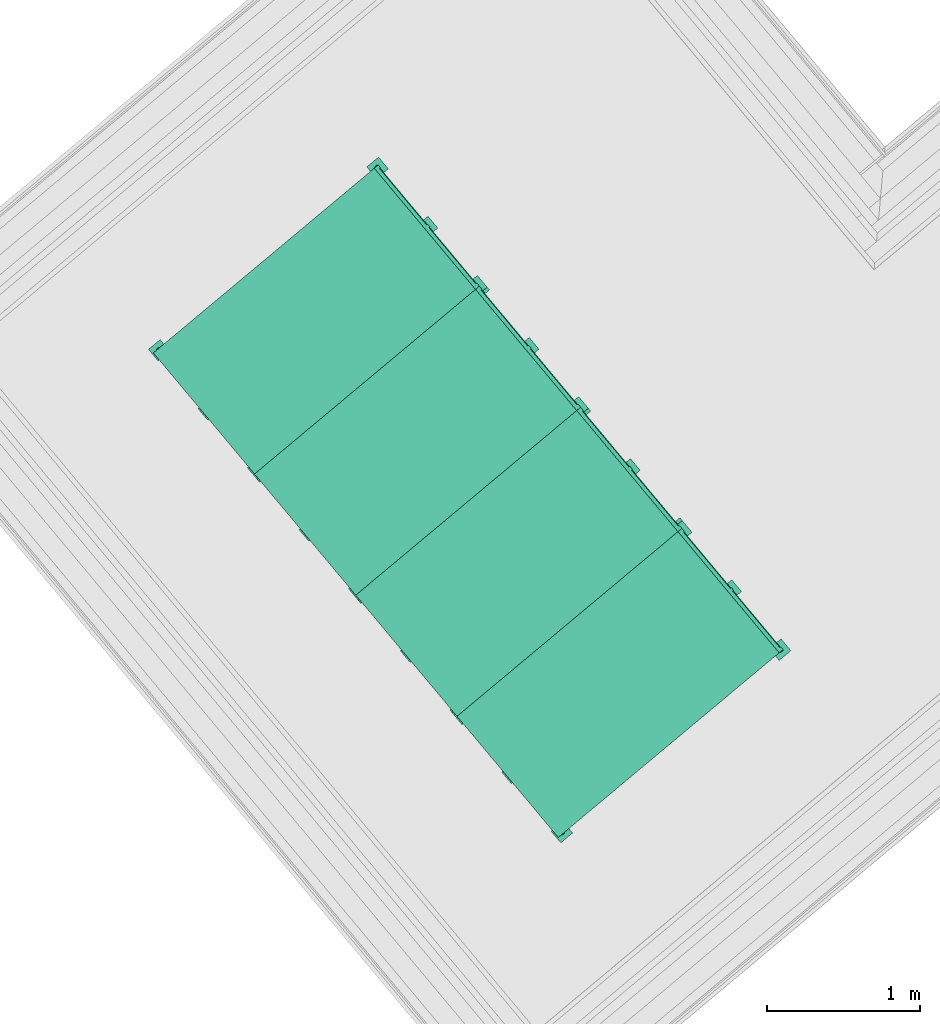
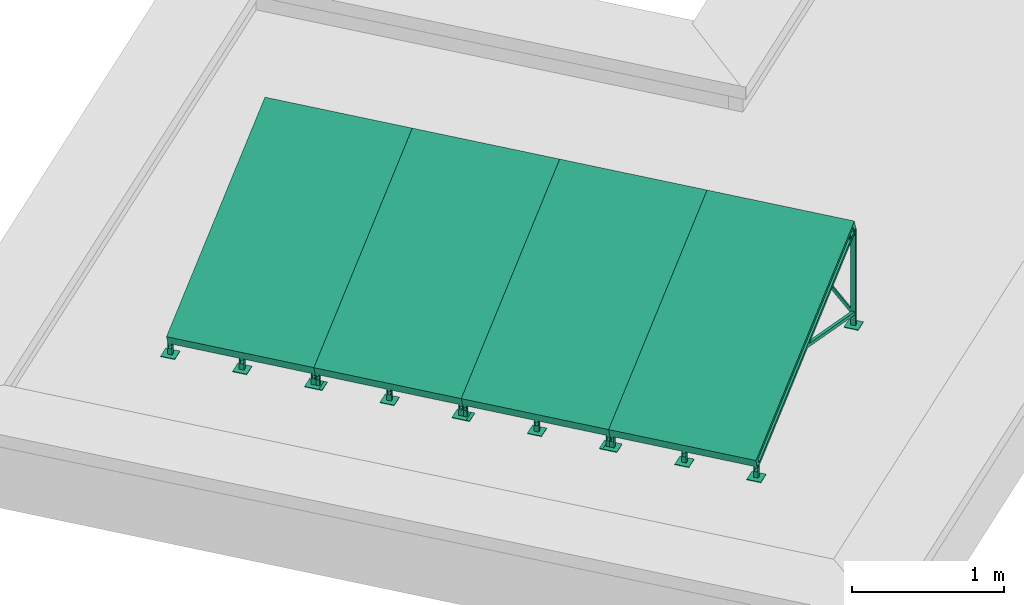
# One storey, part 13 of 13: 4 solar devices.
"""IFC4 building model written with IfcOpenShell, lengths in metres."""

from ifc_helpers import new_model, entity, si_unit, converted_unit, derived_unit, direction, frame, origin_with_axes, place, context, subcontext, project, spatial, polygons, source, transform, mapped, type_object, element, save


model = new_model("IFC4")

# Units and contexts
model_context = context("Model", 3, precision=1e-05, world=origin_with_axes(), true_north=direction((0.0, 1.0)))
body_context = subcontext(model_context, "Body", "Model", "MODEL_VIEW")
ifc_project = project(units=[si_unit("LENGTHUNIT", "METRE"), si_unit("AREAUNIT", "SQUARE_METRE"), si_unit("VOLUMEUNIT", "CUBIC_METRE"), converted_unit("PLANEANGLEUNIT", "DEGREE", entity("IfcPlaneAngleMeasure", 0.0174532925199), si_unit("PLANEANGLEUNIT", "RADIAN"), dimensions=[0, 0, 0, 0, 0, 0, 0]), converted_unit("TIMEUNIT", "Year", entity("IfcTimeMeasure", 31556926.0), si_unit("TIMEUNIT", "SECOND"), dimensions=[0, 0, 1, 0, 0, 0, 0]), si_unit("MASSUNIT", "GRAM", prefix="KILO"), si_unit("THERMODYNAMICTEMPERATUREUNIT", "DEGREE_CELSIUS"), si_unit("LUMINOUSINTENSITYUNIT", "LUMEN"), si_unit("ENERGYUNIT", "JOULE", prefix="MEGA"), derived_unit("THERMALCONDUCTANCEUNIT", [(si_unit("POWERUNIT", "WATT"), 1), (si_unit("LENGTHUNIT", "METRE"), -1), (si_unit("THERMODYNAMICTEMPERATUREUNIT", "KELVIN"), -1)]), derived_unit("SPECIFICHEATCAPACITYUNIT", [(si_unit("ENERGYUNIT", "JOULE"), 1), (si_unit("MASSUNIT", "GRAM", prefix="KILO"), -1), (si_unit("THERMODYNAMICTEMPERATUREUNIT", "KELVIN"), -1)]), derived_unit("MASSDENSITYUNIT", [(si_unit("MASSUNIT", "GRAM", prefix="KILO"), 1), (si_unit("VOLUMEUNIT", "CUBIC_METRE"), -1)])], contexts=[model_context])

# Site, building, storey
site_placement = place(None, frame((-0.00153261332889, -0.00661245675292, 0.0), z_axis=(0.0, 0.0, 1.0), x_axis=(1.0, 0.0, 0.0)))
site = spatial("IfcSite", under=ifc_project, at=site_placement, Name="Gelände", CompositionType="ELEMENT")
building_placement = place(site_placement, origin_with_axes())
building = spatial("IfcBuilding", under=site, at=building_placement, Name="Gebäude", CompositionType="ELEMENT")
storey_placement = place(building_placement, frame((0.0, 0.0, 11.84), z_axis=(0.0, 0.0, 1.0), x_axis=(1.0, 0.0, 0.0)))
storey = spatial("IfcBuildingStorey", under=building, at=storey_placement, Name="DA", CompositionType="ELEMENT", Elevation=11.84)

# Solar devices
solar_device_type = type_object("IfcSolarDeviceType", Name="Flach-Sonnenkollektor 25", PredefinedType="NOTDEFINED")
shared_shape = source(origin_with_axes(), body_context, "Body", "Tessellation", [
    polygons([(0.0, -0.00338055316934, 0.0951720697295), (0.0, 0.0271594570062, 0.106287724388), (1.035, 0.0271594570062, 0.106287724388), (1.035, -0.00338055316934, 0.0951720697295), (0.0, -0.019797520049, 0.140277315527), (0.0, 0.0107424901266, 0.151392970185), (1.035, 0.0107424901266, 0.151392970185), (1.035, -0.019797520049, 0.140277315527)], [[[1, 2, 3, 4]], [[1, 5, 6, 2]], [[2, 6, 7, 3]], [[4, 3, 7, 8]], [[5, 1, 4, 8]], [[6, 5, 8, 7]]], closed=True),
    polygons([(0.0, 1.85392191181, 0.771174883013), (0.0, 1.88446192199, 0.782290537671), (1.035, 1.88446192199, 0.782290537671), (1.035, 1.85392191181, 0.771174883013), (0.0, 1.83750494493, 0.81628012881), (0.0, 1.86804495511, 0.827395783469), (1.035, 1.86804495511, 0.827395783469), (1.035, 1.83750494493, 0.81628012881)], [[[1, 2, 3, 4]], [[1, 5, 6, 2]], [[2, 6, 7, 3]], [[4, 3, 7, 8]], [[5, 1, 4, 8]], [[6, 5, 8, 7]]], closed=True),
    polygons([(1.0025, 1.86804495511, 0.827395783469), (1.035, 1.86804495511, 0.827395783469), (1.035, -0.019797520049, 0.140277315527), (0.0, -0.019797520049, 0.140277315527), (0.0, 1.86804495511, 0.827395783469), (0.0325, 1.86804495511, 0.827395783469), (1.0025, 1.83750494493, 0.81628012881), (0.0325, 1.83750494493, 0.81628012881), (0.0325, 0.0107424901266, 0.151392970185), (1.0025, 0.0107424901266, 0.151392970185), (0.0, 1.85915243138, 0.851827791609), (1.035, 1.85915243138, 0.851827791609), (1.035, -0.0286900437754, 0.164709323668), (0.0, -0.0286900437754, 0.164709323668), (1.0025, 1.85392191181, 0.771174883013), (0.0325, 1.85392191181, 0.771174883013), (0.0325, 0.0271594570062, 0.106287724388), (1.0025, 0.0271594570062, 0.106287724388), (0.07, 0.0370884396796, 0.1886507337), (0.07, 1.79337394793, 0.827886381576), (0.965, 1.79337394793, 0.827886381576), (0.965, 0.0370884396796, 0.1886507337), (0.07, 0.0535054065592, 0.143545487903), (0.07, 1.80979091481, 0.782781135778), (0.965, 1.80979091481, 0.782781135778), (0.965, 0.0535054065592, 0.143545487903)], [[[1, 2, 3, 4, 5, 6], [7, 8, 9, 10]], [[1, 6, 5, 11, 12, 2]], [[12, 13, 3, 2]], [[13, 14, 4, 3]], [[11, 5, 4, 14]], [[7, 15, 16, 8]], [[8, 16, 17, 9]], [[18, 10, 9, 17]], [[15, 7, 10, 18]], [[13, 12, 11, 14], [19, 20, 21, 22]], [[16, 15, 18, 17]], [[20, 19, 23, 24]], [[21, 20, 24, 25]], [[22, 21, 25, 26]], [[19, 22, 26, 23]], [[25, 24, 23, 26]]], closed=True),
    polygons([(0.07, 0.0387985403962, 0.183952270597), (0.965, 0.0387985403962, 0.183952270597), (0.965, 0.0370884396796, 0.1886507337), (0.07, 0.0370884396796, 0.1886507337), (0.07, 1.79508404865, 0.823187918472), (0.965, 1.79508404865, 0.823187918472), (0.965, 1.79337394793, 0.827886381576), (0.07, 1.79337394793, 0.827886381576)], [[[1, 2, 3, 4]], [[1, 5, 6, 2]], [[2, 6, 7, 3]], [[4, 3, 7, 8]], [[5, 1, 4, 8]], [[6, 5, 8, 7]]], closed=True),
    polygons([(0.0325, 1.77004902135, 0.776346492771), (0.0325, 1.76959832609, 0.766023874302), (0.0325, 1.77657882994, 0.758405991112), (0.0325, 1.78690144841, 0.757955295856), (0.0325, 1.7945193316, 0.764935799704), (0.0325, 1.79497002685, 0.775258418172), (0.0325, 1.787989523, 0.782876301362), (0.0325, 1.77766690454, 0.783326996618), (0.0, 1.77004902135, 0.776346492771), (0.0, 1.76959832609, 0.766023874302), (0.0, 1.77657882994, 0.758405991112), (0.0, 1.78690144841, 0.757955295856), (0.0, 1.7945193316, 0.764935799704), (0.0, 1.79497002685, 0.775258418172), (0.0, 1.787989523, 0.782876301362), (0.0, 1.77766690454, 0.783326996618)], [[[1, 2, 3, 4, 5, 6, 7, 8]], [[2, 1, 9, 10]], [[3, 2, 10, 11]], [[4, 3, 11, 12]], [[5, 4, 12, 13]], [[6, 5, 13, 14]], [[7, 6, 14, 15]], [[8, 7, 15, 16]], [[1, 8, 16, 9]], [[9, 16, 15, 14, 13, 12, 11, 10]]], closed=True),
    polygons([(1.0025, 1.77004902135, 0.776346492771), (1.0025, 1.77766690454, 0.783326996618), (1.0025, 1.787989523, 0.782876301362), (1.0025, 1.79497002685, 0.775258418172), (1.0025, 1.7945193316, 0.764935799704), (1.0025, 1.78690144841, 0.757955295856), (1.0025, 1.77657882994, 0.758405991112), (1.0025, 1.76959832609, 0.766023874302), (1.035, 1.77004902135, 0.776346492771), (1.035, 1.77766690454, 0.783326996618), (1.035, 1.787989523, 0.782876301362), (1.035, 1.79497002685, 0.775258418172), (1.035, 1.7945193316, 0.764935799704), (1.035, 1.78690144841, 0.757955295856), (1.035, 1.77657882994, 0.758405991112), (1.035, 1.76959832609, 0.766023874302)], [[[1, 2, 3, 4, 5, 6, 7, 8]], [[1, 9, 10, 2]], [[2, 10, 11, 3]], [[3, 11, 12, 4]], [[4, 12, 13, 5]], [[5, 13, 14, 6]], [[6, 14, 15, 7]], [[7, 15, 16, 8]], [[8, 16, 9, 1]], [[9, 16, 15, 14, 13, 12, 11, 10]]], closed=True),
    polygons([(0.07, 0.0541894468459, 0.141666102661), (0.965, 0.0541894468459, 0.141666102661), (0.965, 0.048033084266, 0.158580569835), (0.07, 0.048033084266, 0.158580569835), (0.07, 1.81047495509, 0.780901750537), (0.965, 1.81047495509, 0.780901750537), (0.14, 0.119967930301, 0.165607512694), (0.895, 0.119967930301, 0.165607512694), (0.895, 1.74469647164, 0.756960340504), (0.14, 1.74469647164, 0.756960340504), (0.965, 1.80431859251, 0.797816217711), (0.07, 1.80431859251, 0.797816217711), (0.14, 0.113811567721, 0.182521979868), (0.14, 1.73854010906, 0.773874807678), (0.895, 1.73854010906, 0.773874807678), (0.895, 0.113811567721, 0.182521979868)], [[[1, 2, 3, 4]], [[1, 5, 6, 2], [7, 8, 9, 10]], [[2, 6, 11, 3]], [[4, 3, 11, 12], [13, 14, 15, 16]], [[5, 1, 4, 12]], [[6, 5, 12, 11]], [[8, 7, 13, 16]], [[9, 8, 16, 15]], [[10, 9, 15, 14]], [[7, 10, 14, 13]]], closed=True),
    polygons([(0.14, 0.118257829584, 0.170305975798), (0.14, 1.74298637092, 0.761658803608), (0.895, 1.74298637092, 0.761658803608), (0.895, 0.118257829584, 0.170305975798)], [[[1, 2, 3, 4]]], closed=False),
    polygons([(0.0, 1.89267040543, 0.759737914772), (0.024, 1.89267040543, 0.759737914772), (0.024, 0.00482793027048, 0.0726194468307), (0.0, 0.00482793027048, 0.0726194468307), (0.0, 1.88446192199, 0.782290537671), (0.024, 1.88446192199, 0.782290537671), (0.024, -0.00338055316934, 0.0951720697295), (0.0, -0.00338055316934, 0.0951720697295)], [[[1, 2, 3, 4]], [[1, 5, 6, 2]], [[2, 6, 7, 3]], [[4, 3, 7, 8]], [[5, 1, 4, 8]], [[6, 5, 8, 7]]], closed=True),
    polygons([(0.5055, 1.89267040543, 0.759737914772), (0.5295, 1.89267040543, 0.759737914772), (0.5295, 0.00482793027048, 0.0726194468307), (0.5055, 0.00482793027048, 0.0726194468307), (0.5055, 1.88446192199, 0.782290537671), (0.5295, 1.88446192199, 0.782290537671), (0.5295, -0.00338055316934, 0.0951720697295), (0.5055, -0.00338055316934, 0.0951720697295)], [[[1, 2, 3, 4]], [[1, 5, 6, 2]], [[2, 6, 7, 3]], [[4, 3, 7, 8]], [[5, 1, 4, 8]], [[6, 5, 8, 7]]], closed=True),
    polygons([(1.011, 1.89267040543, 0.759737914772), (1.035, 1.89267040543, 0.759737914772), (1.035, 0.00482793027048, 0.0726194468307), (1.011, 0.00482793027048, 0.0726194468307), (1.011, 1.88446192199, 0.782290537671), (1.035, 1.88446192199, 0.782290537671), (1.035, -0.00338055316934, 0.0951720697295), (1.011, -0.00338055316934, 0.0951720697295)], [[[1, 2, 3, 4]], [[1, 5, 6, 2]], [[2, 6, 7, 3]], [[4, 3, 7, 8]], [[5, 1, 4, 8]], [[6, 5, 8, 7]]], closed=True),
    polygons([(0.0, 0.024, 0.052), (0.024, 0.024, 0.052), (0.024, 0.024, 0.088), (0.029, 0.024, 0.088), (0.029, 0.024, 0.005), (-0.005, 0.024, 0.005), (-0.005, 0.024, 0.088), (0.0, 0.024, 0.088), (0.0, 0.0, 0.052), (0.024, 0.0, 0.052), (0.024, 0.0204852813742, 0.0964852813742), (0.024, 0.0, 0.088), (0.024, 0.00351471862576, 0.0964852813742), (0.024, 0.012, 0.1), (0.029, 0.0204852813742, 0.0964852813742), (0.029, 0.012, 0.1), (0.029, 0.00351471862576, 0.0964852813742), (0.029, 0.0, 0.088), (0.029, 0.0, 0.005), (-0.005, 0.0, 0.005), (-0.005, 0.0204852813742, 0.0964852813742), (-0.005, 0.0, 0.088), (-0.005, 0.00351471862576, 0.0964852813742), (-0.005, 0.012, 0.1), (0.0, 0.0204852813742, 0.0964852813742), (0.0, 0.012, 0.1), (0.0, 0.00351471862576, 0.0964852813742), (0.0, 0.0, 0.088)], [[[1, 2, 3, 4, 5, 6, 7, 8]], [[2, 1, 9, 10]], [[11, 3, 2, 10, 12, 13, 14]], [[3, 11, 15, 4]], [[16, 17, 18, 19, 5, 4, 15]], [[6, 5, 19, 20]], [[21, 7, 6, 20, 22, 23, 24]], [[25, 8, 7, 21]], [[1, 8, 25, 26, 27, 28, 9]], [[9, 28, 22, 20, 19, 18, 12, 10]], [[13, 12, 18, 17]], [[14, 13, 17, 16]], [[11, 14, 16, 15]], [[28, 27, 23, 22]], [[27, 26, 24, 23]], [[26, 25, 21, 24]]], closed=True),
    polygons([(-0.038, -0.038, 0.0), (0.062, -0.038, 0.0), (0.062, -0.038, 0.005), (-0.038, -0.038, 0.005), (-0.038, 0.062, 0.0), (0.062, 0.062, 0.0), (0.062, 0.062, 0.005), (-0.038, 0.062, 0.005)], [[[1, 2, 3, 4]], [[1, 5, 6, 2]], [[2, 6, 7, 3]], [[4, 3, 7, 8]], [[5, 1, 4, 8]], [[6, 5, 8, 7]]], closed=True),
    polygons([(0.5055, 0.024, 0.052), (0.5295, 0.024, 0.052), (0.5295, 0.024, 0.088), (0.5345, 0.024, 0.088), (0.5345, 0.024, 0.005), (0.5005, 0.024, 0.005), (0.5005, 0.024, 0.088), (0.5055, 0.024, 0.088), (0.5055, 0.0, 0.052), (0.5295, 0.0, 0.052), (0.5295, 0.0204852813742, 0.0964852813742), (0.5295, 0.0, 0.088), (0.5295, 0.00351471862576, 0.0964852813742), (0.5295, 0.012, 0.1), (0.5345, 0.0204852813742, 0.0964852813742), (0.5345, 0.012, 0.1), (0.5345, 0.00351471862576, 0.0964852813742), (0.5345, 0.0, 0.088), (0.5345, 0.0, 0.005), (0.5005, 0.0, 0.005), (0.5005, 0.0204852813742, 0.0964852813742), (0.5005, 0.0, 0.088), (0.5005, 0.00351471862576, 0.0964852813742), (0.5005, 0.012, 0.1), (0.5055, 0.0204852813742, 0.0964852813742), (0.5055, 0.012, 0.1), (0.5055, 0.00351471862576, 0.0964852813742), (0.5055, 0.0, 0.088)], [[[1, 2, 3, 4, 5, 6, 7, 8]], [[2, 1, 9, 10]], [[11, 3, 2, 10, 12, 13, 14]], [[3, 11, 15, 4]], [[16, 17, 18, 19, 5, 4, 15]], [[6, 5, 19, 20]], [[21, 7, 6, 20, 22, 23, 24]], [[25, 8, 7, 21]], [[1, 8, 25, 26, 27, 28, 9]], [[9, 28, 22, 20, 19, 18, 12, 10]], [[13, 12, 18, 17]], [[14, 13, 17, 16]], [[11, 14, 16, 15]], [[28, 27, 23, 22]], [[27, 26, 24, 23]], [[26, 25, 21, 24]]], closed=True),
    polygons([(0.4675, -0.038, 0.0), (0.5675, -0.038, 0.0), (0.5675, -0.038, 0.005), (0.4675, -0.038, 0.005), (0.4675, 0.062, 0.0), (0.5675, 0.062, 0.0), (0.5675, 0.062, 0.005), (0.4675, 0.062, 0.005)], [[[1, 2, 3, 4]], [[1, 5, 6, 2]], [[2, 6, 7, 3]], [[4, 3, 7, 8]], [[5, 1, 4, 8]], [[6, 5, 8, 7]]], closed=True),
    polygons([(1.011, 0.024, 0.052), (1.035, 0.024, 0.052), (1.035, 0.024, 0.088), (1.04, 0.024, 0.088), (1.04, 0.024, 0.005), (1.006, 0.024, 0.005), (1.006, 0.024, 0.088), (1.011, 0.024, 0.088), (1.011, 0.0, 0.052), (1.035, 0.0, 0.052), (1.035, 0.0204852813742, 0.0964852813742), (1.035, 0.0, 0.088), (1.035, 0.00351471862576, 0.0964852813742), (1.035, 0.012, 0.1), (1.04, 0.0204852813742, 0.0964852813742), (1.04, 0.012, 0.1), (1.04, 0.00351471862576, 0.0964852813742), (1.04, 0.0, 0.088), (1.04, 0.0, 0.005), (1.006, 0.0, 0.005), (1.006, 0.0204852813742, 0.0964852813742), (1.006, 0.0, 0.088), (1.006, 0.00351471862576, 0.0964852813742), (1.006, 0.012, 0.1), (1.011, 0.0204852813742, 0.0964852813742), (1.011, 0.012, 0.1), (1.011, 0.00351471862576, 0.0964852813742), (1.011, 0.0, 0.088)], [[[1, 2, 3, 4, 5, 6, 7, 8]], [[2, 1, 9, 10]], [[11, 3, 2, 10, 12, 13, 14]], [[3, 11, 15, 4]], [[16, 17, 18, 19, 5, 4, 15]], [[6, 5, 19, 20]], [[21, 7, 6, 20, 22, 23, 24]], [[25, 8, 7, 21]], [[1, 8, 25, 26, 27, 28, 9]], [[9, 28, 22, 20, 19, 18, 12, 10]], [[13, 12, 18, 17]], [[14, 13, 17, 16]], [[11, 14, 16, 15]], [[28, 27, 23, 22]], [[27, 26, 24, 23]], [[26, 25, 21, 24]]], closed=True),
    polygons([(0.973, -0.038, 0.0), (1.073, -0.038, 0.0), (1.073, -0.038, 0.005), (0.973, -0.038, 0.005), (0.973, 0.062, 0.0), (1.073, 0.062, 0.0), (1.073, 0.062, 0.005), (0.973, 0.062, 0.005)], [[[1, 2, 3, 4]], [[1, 5, 6, 2]], [[2, 6, 7, 3]], [[4, 3, 7, 8]], [[5, 1, 4, 8]], [[6, 5, 8, 7]]], closed=True),
    polygons([(0.0, 1.88928985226, 0.730909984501), (0.024, 1.88928985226, 0.730909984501), (0.024, 1.88928985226, 0.766909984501), (0.029, 1.88928985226, 0.766909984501), (0.029, 1.88928985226, 0.005), (-0.005, 1.88928985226, 0.005), (-0.005, 1.88928985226, 0.766909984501), (0.0, 1.88928985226, 0.766909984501), (0.0, 1.86528985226, 0.730909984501), (0.024, 1.86528985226, 0.730909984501), (0.024, 1.88577513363, 0.775395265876), (0.024, 1.86528985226, 0.766909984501), (0.024, 1.86880457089, 0.775395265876), (0.024, 1.87728985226, 0.778909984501), (0.029, 1.88577513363, 0.775395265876), (0.029, 1.87728985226, 0.778909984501), (0.029, 1.86880457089, 0.775395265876), (0.029, 1.86528985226, 0.766909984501), (0.029, 1.86528985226, 0.005), (-0.005, 1.86528985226, 0.005), (-0.005, 1.88577513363, 0.775395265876), (-0.005, 1.86528985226, 0.766909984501), (-0.005, 1.86880457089, 0.775395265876), (-0.005, 1.87728985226, 0.778909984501), (0.0, 1.88577513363, 0.775395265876), (0.0, 1.87728985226, 0.778909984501), (0.0, 1.86880457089, 0.775395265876), (0.0, 1.86528985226, 0.766909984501)], [[[1, 2, 3, 4, 5, 6, 7, 8]], [[2, 1, 9, 10]], [[11, 3, 2, 10, 12, 13, 14]], [[3, 11, 15, 4]], [[16, 17, 18, 19, 5, 4, 15]], [[6, 5, 19, 20]], [[21, 7, 6, 20, 22, 23, 24]], [[25, 8, 7, 21]], [[1, 8, 25, 26, 27, 28, 9]], [[9, 28, 22, 20, 19, 18, 12, 10]], [[13, 12, 18, 17]], [[14, 13, 17, 16]], [[11, 14, 16, 15]], [[28, 27, 23, 22]], [[27, 26, 24, 23]], [[26, 25, 21, 24]]], closed=True),
    polygons([(-0.038, 1.82728985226, 0.0), (0.062, 1.82728985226, 0.0), (0.062, 1.82728985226, 0.005), (-0.038, 1.82728985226, 0.005), (-0.038, 1.92728985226, 0.0), (0.062, 1.92728985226, 0.0), (0.062, 1.92728985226, 0.005), (-0.038, 1.92728985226, 0.005)], [[[1, 2, 3, 4]], [[1, 5, 6, 2]], [[2, 6, 7, 3]], [[4, 3, 7, 8]], [[5, 1, 4, 8]], [[6, 5, 8, 7]]], closed=True),
    polygons([(0.5055, 1.88928985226, 0.730909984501), (0.5295, 1.88928985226, 0.730909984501), (0.5295, 1.88928985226, 0.766909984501), (0.5345, 1.88928985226, 0.766909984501), (0.5345, 1.88928985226, 0.005), (0.5005, 1.88928985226, 0.005), (0.5005, 1.88928985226, 0.766909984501), (0.5055, 1.88928985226, 0.766909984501), (0.5055, 1.86528985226, 0.730909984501), (0.5295, 1.86528985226, 0.730909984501), (0.5295, 1.88577513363, 0.775395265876), (0.5295, 1.86528985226, 0.766909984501), (0.5295, 1.86880457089, 0.775395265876), (0.5295, 1.87728985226, 0.778909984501), (0.5345, 1.88577513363, 0.775395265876), (0.5345, 1.87728985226, 0.778909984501), (0.5345, 1.86880457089, 0.775395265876), (0.5345, 1.86528985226, 0.766909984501), (0.5345, 1.86528985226, 0.005), (0.5005, 1.86528985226, 0.005), (0.5005, 1.88577513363, 0.775395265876), (0.5005, 1.86528985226, 0.766909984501), (0.5005, 1.86880457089, 0.775395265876), (0.5005, 1.87728985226, 0.778909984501), (0.5055, 1.88577513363, 0.775395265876), (0.5055, 1.87728985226, 0.778909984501), (0.5055, 1.86880457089, 0.775395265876), (0.5055, 1.86528985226, 0.766909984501)], [[[1, 2, 3, 4, 5, 6, 7, 8]], [[2, 1, 9, 10]], [[11, 3, 2, 10, 12, 13, 14]], [[3, 11, 15, 4]], [[16, 17, 18, 19, 5, 4, 15]], [[6, 5, 19, 20]], [[21, 7, 6, 20, 22, 23, 24]], [[25, 8, 7, 21]], [[1, 8, 25, 26, 27, 28, 9]], [[9, 28, 22, 20, 19, 18, 12, 10]], [[13, 12, 18, 17]], [[14, 13, 17, 16]], [[11, 14, 16, 15]], [[28, 27, 23, 22]], [[27, 26, 24, 23]], [[26, 25, 21, 24]]], closed=True),
    polygons([(0.4675, 1.82728985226, 0.0), (0.5675, 1.82728985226, 0.0), (0.5675, 1.82728985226, 0.005), (0.4675, 1.82728985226, 0.005), (0.4675, 1.92728985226, 0.0), (0.5675, 1.92728985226, 0.0), (0.5675, 1.92728985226, 0.005), (0.4675, 1.92728985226, 0.005)], [[[1, 2, 3, 4]], [[1, 5, 6, 2]], [[2, 6, 7, 3]], [[4, 3, 7, 8]], [[5, 1, 4, 8]], [[6, 5, 8, 7]]], closed=True),
    polygons([(1.011, 1.88928985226, 0.730909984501), (1.035, 1.88928985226, 0.730909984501), (1.035, 1.88928985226, 0.766909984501), (1.04, 1.88928985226, 0.766909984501), (1.04, 1.88928985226, 0.005), (1.006, 1.88928985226, 0.005), (1.006, 1.88928985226, 0.766909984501), (1.011, 1.88928985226, 0.766909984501), (1.011, 1.86528985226, 0.730909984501), (1.035, 1.86528985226, 0.730909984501), (1.035, 1.88577513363, 0.775395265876), (1.035, 1.86528985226, 0.766909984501), (1.035, 1.86880457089, 0.775395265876), (1.035, 1.87728985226, 0.778909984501), (1.04, 1.88577513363, 0.775395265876), (1.04, 1.87728985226, 0.778909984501), (1.04, 1.86880457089, 0.775395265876), (1.04, 1.86528985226, 0.766909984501), (1.04, 1.86528985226, 0.005), (1.006, 1.86528985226, 0.005), (1.006, 1.88577513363, 0.775395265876), (1.006, 1.86528985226, 0.766909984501), (1.006, 1.86880457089, 0.775395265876), (1.006, 1.87728985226, 0.778909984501), (1.011, 1.88577513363, 0.775395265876), (1.011, 1.87728985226, 0.778909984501), (1.011, 1.86880457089, 0.775395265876), (1.011, 1.86528985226, 0.766909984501)], [[[1, 2, 3, 4, 5, 6, 7, 8]], [[2, 1, 9, 10]], [[11, 3, 2, 10, 12, 13, 14]], [[3, 11, 15, 4]], [[16, 17, 18, 19, 5, 4, 15]], [[6, 5, 19, 20]], [[21, 7, 6, 20, 22, 23, 24]], [[25, 8, 7, 21]], [[1, 8, 25, 26, 27, 28, 9]], [[9, 28, 22, 20, 19, 18, 12, 10]], [[13, 12, 18, 17]], [[14, 13, 17, 16]], [[11, 14, 16, 15]], [[28, 27, 23, 22]], [[27, 26, 24, 23]], [[26, 25, 21, 24]]], closed=True),
    polygons([(0.973, 1.82728985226, 0.0), (1.073, 1.82728985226, 0.0), (1.073, 1.82728985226, 0.005), (0.973, 1.82728985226, 0.005), (0.973, 1.92728985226, 0.0), (1.073, 1.92728985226, 0.0), (1.073, 1.92728985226, 0.005), (0.973, 1.92728985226, 0.005)], [[[1, 2, 3, 4]], [[1, 5, 6, 2]], [[2, 6, 7, 3]], [[4, 3, 7, 8]], [[5, 1, 4, 8]], [[6, 5, 8, 7]]], closed=True),
    polygons([(0.024, 1.86528985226, 0.0915975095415), (0.024, 0.961129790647, 0.420684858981), (0.0, 0.961129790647, 0.420684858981), (0.0, 1.86528985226, 0.0915975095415), (0.024, 1.86528985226, 0.117137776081), (0.024, 0.996215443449, 0.433454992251), (0.0, 0.996215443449, 0.433454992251), (0.0, 1.86528985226, 0.117137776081)], [[[1, 2, 3, 4]], [[5, 6, 2, 1]], [[3, 2, 6, 7]], [[4, 3, 7, 8]], [[4, 8, 5, 1]], [[8, 7, 6, 5]]], closed=True),
    polygons([(0.5295, 1.86528985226, 0.0915975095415), (0.5295, 0.961129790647, 0.420684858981), (0.5055, 0.961129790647, 0.420684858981), (0.5055, 1.86528985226, 0.0915975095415), (0.5295, 1.86528985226, 0.117137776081), (0.5295, 0.996215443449, 0.433454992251), (0.5055, 0.996215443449, 0.433454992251), (0.5055, 1.86528985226, 0.117137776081)], [[[1, 2, 3, 4]], [[5, 6, 2, 1]], [[3, 2, 6, 7]], [[4, 3, 7, 8]], [[4, 8, 5, 1]], [[8, 7, 6, 5]]], closed=True),
    polygons([(1.035, 1.86528985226, 0.0915975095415), (1.035, 0.961129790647, 0.420684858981), (1.011, 0.961129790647, 0.420684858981), (1.011, 1.86528985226, 0.0915975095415), (1.035, 1.86528985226, 0.117137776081), (1.035, 0.996215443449, 0.433454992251), (1.011, 0.996215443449, 0.433454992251), (1.011, 1.86528985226, 0.117137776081)], [[[1, 2, 3, 4]], [[5, 6, 2, 1]], [[3, 2, 6, 7]], [[4, 3, 7, 8]], [[4, 8, 5, 1]], [[8, 7, 6, 5]]], closed=True),
    polygons([(0.029, 1.87728985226, 0.101224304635), (0.5005, 1.87728985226, 0.641196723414), (0.5005, 1.87728985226, 0.677685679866), (0.029, 1.87728985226, 0.137713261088), (0.029, 1.88928985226, 0.101224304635), (0.5005, 1.88928985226, 0.641196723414), (0.5005, 1.88928985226, 0.677685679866), (0.029, 1.88928985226, 0.137713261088)], [[[1, 2, 3, 4]], [[5, 6, 2, 1]], [[3, 2, 6, 7]], [[4, 3, 7, 8]], [[4, 8, 5, 1]], [[8, 7, 6, 5]]], closed=True),
    polygons([(0.5005, 1.86528985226, 0.137713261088), (0.029, 1.86528985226, 0.677685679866), (0.029, 1.86528985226, 0.641196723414), (0.5005, 1.86528985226, 0.101224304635), (0.5005, 1.87728985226, 0.137713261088), (0.029, 1.87728985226, 0.677685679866), (0.029, 1.87728985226, 0.641196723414), (0.5005, 1.87728985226, 0.101224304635)], [[[1, 2, 3, 4]], [[5, 6, 2, 1]], [[2, 6, 7, 3]], [[4, 3, 7, 8]], [[1, 4, 8, 5]], [[8, 7, 6, 5]]], closed=True),
    polygons([(0.5345, 1.87728985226, 0.101224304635), (1.006, 1.87728985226, 0.641196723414), (1.006, 1.87728985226, 0.677685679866), (0.5345, 1.87728985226, 0.137713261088), (0.5345, 1.88928985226, 0.101224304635), (1.006, 1.88928985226, 0.641196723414), (1.006, 1.88928985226, 0.677685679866), (0.5345, 1.88928985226, 0.137713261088)], [[[1, 2, 3, 4]], [[5, 6, 2, 1]], [[3, 2, 6, 7]], [[4, 3, 7, 8]], [[4, 8, 5, 1]], [[8, 7, 6, 5]]], closed=True),
    polygons([(1.006, 1.86528985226, 0.137713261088), (0.5345, 1.86528985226, 0.677685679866), (0.5345, 1.86528985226, 0.641196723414), (1.006, 1.86528985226, 0.101224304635), (1.006, 1.87728985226, 0.137713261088), (0.5345, 1.87728985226, 0.677685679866), (0.5345, 1.87728985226, 0.641196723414), (1.006, 1.87728985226, 0.101224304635)], [[[1, 2, 3, 4]], [[5, 6, 2, 1]], [[2, 6, 7, 3]], [[4, 3, 7, 8]], [[1, 4, 8, 5]], [[8, 7, 6, 5]]], closed=True),
])
for number, where, z_axis, x_axis, name in (
    (1, (-5.72119860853, 17.8091184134, 0.4), (0.0, 0.0, 1.0), (0.641209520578, -0.767365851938, 0.0), "Objekt-0010"),
    (2, (-5.05754675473, 17.0148947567, 0.4), (0.0, 0.0, 1.0), (0.641209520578, -0.767365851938, 0.0), "Objekt-0010"),
    (3, (-4.39389490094, 16.2206710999, 0.4), (0.0, 0.0, 1.0), (0.641209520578, -0.767365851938, 0.0), "Objekt-0010"),
    (4, (-3.73024304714, 15.4264474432, 0.4), (0.0, 0.0, 1.0), (0.641209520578, -0.767365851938, 0.0), "Objekt-0010"),
):
    element("IfcSolarDevice", number, at=place(storey_placement, frame(where, z_axis=z_axis, x_axis=x_axis)), inside=storey, type_object=solar_device_type, Name=name, PredefinedType="NOTDEFINED", context=body_context, shape_type="MappedRepresentation", body=[
        mapped(shared_shape, transform((0.0, 0.0, 0.0))),
    ])

save(model, "model.ifc")
